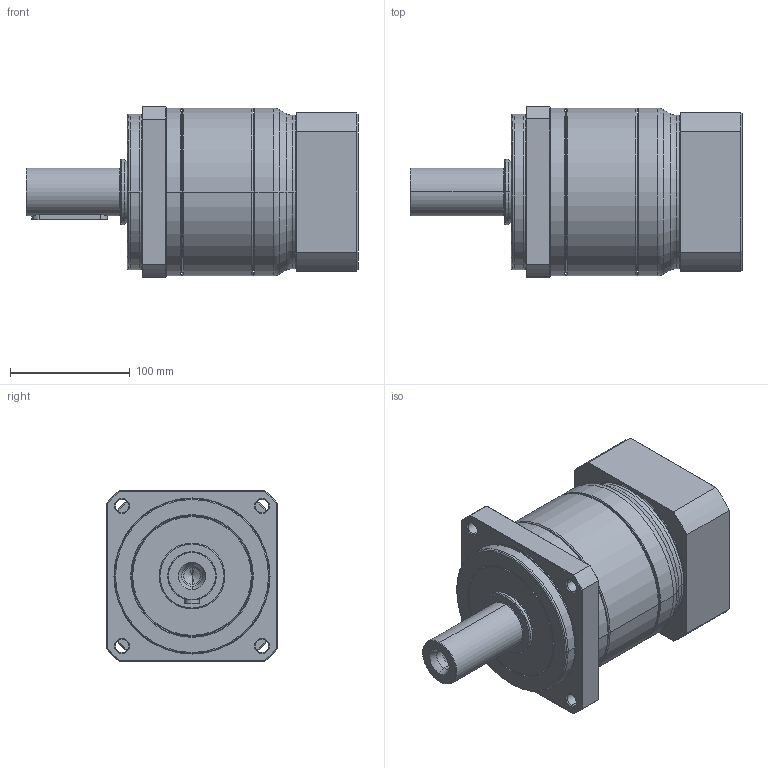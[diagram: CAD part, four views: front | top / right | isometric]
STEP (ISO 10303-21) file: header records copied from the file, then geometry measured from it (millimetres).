
FILE_DESCRIPTION((''),'2;1');
FILE_NAME('PA2-142_1ST_35-P0411800101_ASM','2016-05-06T',('d01943'),(''),'PRO/ENGINEER BY PARAMETRIC TECHNOLOGY CORPORATION, 2008410','PRO/ENGINEER BY PARAMETRIC TECHNOLOGY CORPORATION, 2008410','');
FILE_SCHEMA(('CONFIG_CONTROL_DESIGN'));
Length unit declared in the file: millimetre
Products named in the file (9): P1327510001; P0250500001; P1324500401; P0350500601; P0941504001; P0503800010; P0411800101; P1702600001; PA2-142_1ST_35-P0411800101_ASM
Assembly tree (8 placements, depth 2):
  PA2-142_1ST_35-P0411800101_ASM
    P1327510001
    P0250500001
    P1324500401
    P0350500601
    P0941504001
    P0503800010
    P0411800101
    P1702600001
Bounding box: 277 x 142 x 142 mm (x, y, z)
Volume: 2377520.1 mm3; surface area: 348929.8 mm2
Topology: 8 solids, 8 shells, 455 faces, 996 edges, 576 vertices
Faces by surface type: cone 142, cylinder 127, plane 86, torus 84, bspline 16
Entity records: 17158 total; most frequent: CARTESIAN_POINT 6914, DIRECTION 2312, ORIENTED_EDGE 1952, AXIS2_PLACEMENT_3D 985, EDGE_CURVE 976, VERTEX_POINT 576, CIRCLE 529, EDGE_LOOP 518
